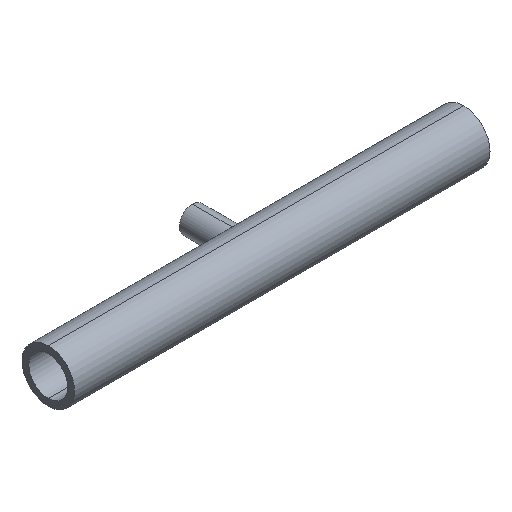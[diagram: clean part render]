
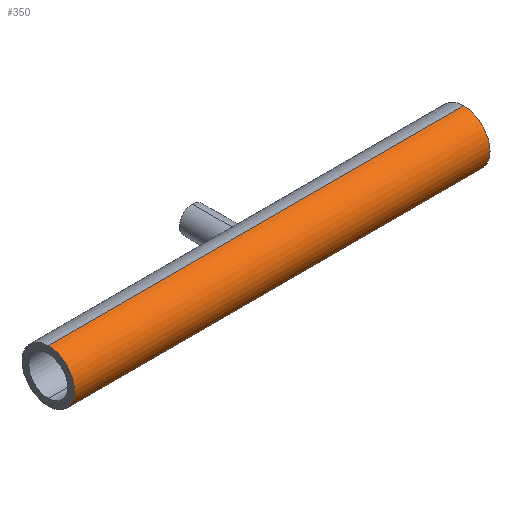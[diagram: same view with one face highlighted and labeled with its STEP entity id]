
A CAD part, isometric view. The second image highlights one B-rep face of the part: STEP entity #350.
In plain terms, the highlighted cylindrical face has radius 6.35 mm (diameter 12.7 mm), a partial arc.
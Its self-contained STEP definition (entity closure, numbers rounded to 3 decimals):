
#12 = VERTEX_POINT ( 'NONE', #289 ) ;
#28 = DIRECTION ( 'NONE',  ( 0., 0., 1. ) ) ;
#52 = CARTESIAN_POINT ( 'NONE',  ( 68.261, 0., 0. ) ) ;
#87 = CARTESIAN_POINT ( 'NONE',  ( 50.3, 0., -6.35 ) ) ;
#88 = AXIS2_PLACEMENT_3D ( 'NONE', #202, #205, #204 ) ;
#92 = EDGE_CURVE ( 'NONE', #412, #429, #293, .T. ) ;
#127 = DIRECTION ( 'NONE',  ( -1., 0., 0. ) ) ;
#130 = EDGE_CURVE ( 'NONE', #274, #12, #342, .T. ) ;
#131 = LINE ( 'NONE', #179, #172 ) ;
#172 = VECTOR ( 'NONE', #180, 1000. ) ;
#178 = LINE ( 'NONE', #305, #275 ) ;
#179 = CARTESIAN_POINT ( 'NONE',  ( 68.261, 0., 6.35 ) ) ;
#180 = DIRECTION ( 'NONE',  ( -1., 0., 0. ) ) ;
#202 = CARTESIAN_POINT ( 'NONE',  ( -50.3, 0., 0. ) ) ;
#204 = DIRECTION ( 'NONE',  ( 0., 0., 1. ) ) ;
#205 = DIRECTION ( 'NONE',  ( 1., 0., 0. ) ) ;
#207 = CARTESIAN_POINT ( 'NONE',  ( 50.3, 0., 0. ) ) ;
#208 = ORIENTED_EDGE ( 'NONE', *, *, #457, .F. ) ;
#209 = DIRECTION ( 'NONE',  ( -1., 0., 0. ) ) ;
#213 = DIRECTION ( 'NONE',  ( 0., 0., 1. ) ) ;
#214 = CARTESIAN_POINT ( 'NONE',  ( -50.3, 0., 6.35 ) ) ;
#244 = AXIS2_PLACEMENT_3D ( 'NONE', #52, #127, #28 ) ;
#258 = DIRECTION ( 'NONE',  ( -1., 0., 0. ) ) ;
#274 = VERTEX_POINT ( 'NONE', #87 ) ;
#275 = VECTOR ( 'NONE', #258, 1000. ) ;
#284 = AXIS2_PLACEMENT_3D ( 'NONE', #207, #209, #213 ) ;
#289 = CARTESIAN_POINT ( 'NONE',  ( 50.3, 0., 6.35 ) ) ;
#293 = CIRCLE ( 'NONE', #88, 6.35 ) ;
#299 = ORIENTED_EDGE ( 'NONE', *, *, #470, .T. ) ;
#301 = CARTESIAN_POINT ( 'NONE',  ( -50.3, 0., -6.35 ) ) ;
#303 = ORIENTED_EDGE ( 'NONE', *, *, #92, .T. ) ;
#305 = CARTESIAN_POINT ( 'NONE',  ( 68.261, 0., -6.35 ) ) ;
#332 = CYLINDRICAL_SURFACE ( 'NONE', #244, 6.35 ) ;
#342 = CIRCLE ( 'NONE', #284, 6.35 ) ;
#345 = ORIENTED_EDGE ( 'NONE', *, *, #130, .T. ) ;
#346 = FACE_OUTER_BOUND ( 'NONE', #359, .T. ) ;
#350 = ADVANCED_FACE ( 'NONE', ( #346 ), #332, .T. ) ;
#359 = EDGE_LOOP ( 'NONE', ( #208, #345, #299, #303 ) ) ;
#412 = VERTEX_POINT ( 'NONE', #214 ) ;
#429 = VERTEX_POINT ( 'NONE', #301 ) ;
#457 = EDGE_CURVE ( 'NONE', #274, #429, #178, .T. ) ;
#470 = EDGE_CURVE ( 'NONE', #12, #412, #131, .T. ) ;
